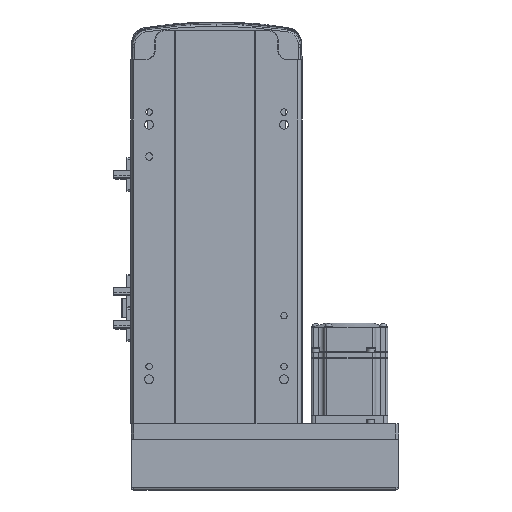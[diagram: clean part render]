
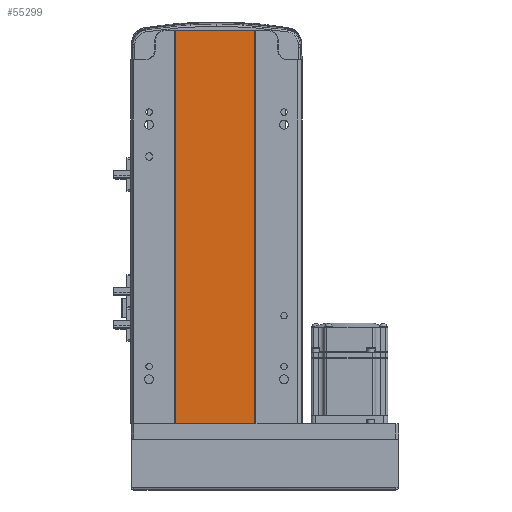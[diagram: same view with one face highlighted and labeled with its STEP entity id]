
A CAD part, front view. The second image highlights one B-rep face of the part: STEP entity #55299.
In plain terms, the highlighted planar face has unit normal (0, -1, 0).
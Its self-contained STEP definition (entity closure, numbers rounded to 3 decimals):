
#1377 = PLANE ( 'NONE',  #18228 ) ;
#1403 = ORIENTED_EDGE ( 'NONE', *, *, #47767, .F. ) ;
#3010 = ORIENTED_EDGE ( 'NONE', *, *, #19606, .F. ) ;
#5001 = CARTESIAN_POINT ( 'NONE',  ( -32., 1., 309. ) ) ;
#7375 = ORIENTED_EDGE ( 'NONE', *, *, #48811, .T. ) ;
#7691 = VECTOR ( 'NONE', #37522, 1000. ) ;
#12564 = VERTEX_POINT ( 'NONE', #36548 ) ;
#14090 = CARTESIAN_POINT ( 'NONE',  ( 30., 1., 309. ) ) ;
#14939 = LINE ( 'NONE', #55540, #42506 ) ;
#16521 = FACE_OUTER_BOUND ( 'NONE', #43435, .T. ) ;
#18228 = AXIS2_PLACEMENT_3D ( 'NONE', #22298, #52404, #30927 ) ;
#19606 = EDGE_CURVE ( 'NONE', #23930, #27484, #45674, .T. ) ;
#21350 = CARTESIAN_POINT ( 'NONE',  ( 30., 1., 0. ) ) ;
#22298 = CARTESIAN_POINT ( 'NONE',  ( -32., 1., 309. ) ) ;
#22994 = DIRECTION ( 'NONE',  ( 0., 0., -1. ) ) ;
#23930 = VERTEX_POINT ( 'NONE', #5001 ) ;
#27484 = VERTEX_POINT ( 'NONE', #14090 ) ;
#29727 = DIRECTION ( 'NONE',  ( 1., 0., 0. ) ) ;
#30507 = LINE ( 'NONE', #48754, #52054 ) ;
#30927 = DIRECTION ( 'NONE',  ( -1., 0., 0. ) ) ;
#31505 = CARTESIAN_POINT ( 'NONE',  ( -32., 1., 309. ) ) ;
#35985 = VERTEX_POINT ( 'NONE', #21350 ) ;
#36548 = CARTESIAN_POINT ( 'NONE',  ( -32., 1., 0. ) ) ;
#37379 = ORIENTED_EDGE ( 'NONE', *, *, #37693, .T. ) ;
#37522 = DIRECTION ( 'NONE',  ( 0., 0., -1. ) ) ;
#37586 = VECTOR ( 'NONE', #53340, 1000. ) ;
#37693 = EDGE_CURVE ( 'NONE', #23930, #12564, #46760, .T. ) ;
#42506 = VECTOR ( 'NONE', #29727, 1000. ) ;
#43435 = EDGE_LOOP ( 'NONE', ( #7375, #1403, #3010, #37379 ) ) ;
#45616 = CARTESIAN_POINT ( 'NONE',  ( -32., 1., 309. ) ) ;
#45674 = LINE ( 'NONE', #31505, #37586 ) ;
#46760 = LINE ( 'NONE', #45616, #7691 ) ;
#47767 = EDGE_CURVE ( 'NONE', #27484, #35985, #30507, .T. ) ;
#48754 = CARTESIAN_POINT ( 'NONE',  ( 30., 1., 309. ) ) ;
#48811 = EDGE_CURVE ( 'NONE', #12564, #35985, #14939, .T. ) ;
#52054 = VECTOR ( 'NONE', #22994, 1000. ) ;
#52404 = DIRECTION ( 'NONE',  ( 0., 1., 0. ) ) ;
#53340 = DIRECTION ( 'NONE',  ( 1., 0., 0. ) ) ;
#55299 = ADVANCED_FACE ( 'NONE', ( #16521 ), #1377, .F. ) ;
#55540 = CARTESIAN_POINT ( 'NONE',  ( -32., 1., 0. ) ) ;
